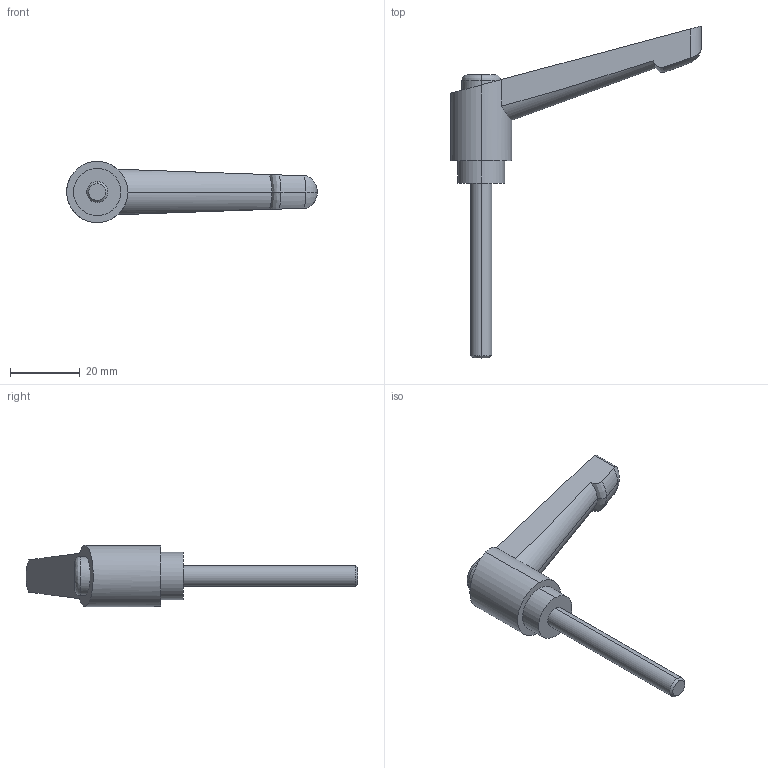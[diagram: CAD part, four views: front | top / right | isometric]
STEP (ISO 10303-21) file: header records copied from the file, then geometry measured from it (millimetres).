
FILE_DESCRIPTION (( 'STEP AP214' ), '1' );
FILE_NAME ('2.9011 Kiinnitysvipu M6 AL L50 ulkokierteellä.STEP', '2025-09-10T08:10:35', ( '' ), ( '' ), 'SwSTEP 2.0', 'SolidWorks 2025', '' );
FILE_SCHEMA (( 'AUTOMOTIVE_DESIGN' ));
Length unit declared in the file: millimetre
Products named in the file (1): 2.9011 Kiinnitysvipu M6 AL L50 ulkokierteellä
Bounding box: 71.75 x 95 x 17.5 mm (x, y, z)
Volume: 13460.1 mm3; surface area: 5101.6 mm2
Topology: 1 solids, 1 shells, 56 faces, 141 edges, 89 vertices
Faces by surface type: cylinder 31, cone 12, plane 7, bspline 4, torus 2
Entity records: 2390 total; most frequent: CARTESIAN_POINT 764, ORIENTED_EDGE 278, DIRECTION 208, EDGE_CURVE 139, VERTEX_POINT 89, AXIS2_PLACEMENT_3D 85, EDGE_LOOP 60, B_SPLINE_CURVE_WITH_KNOTS 57
